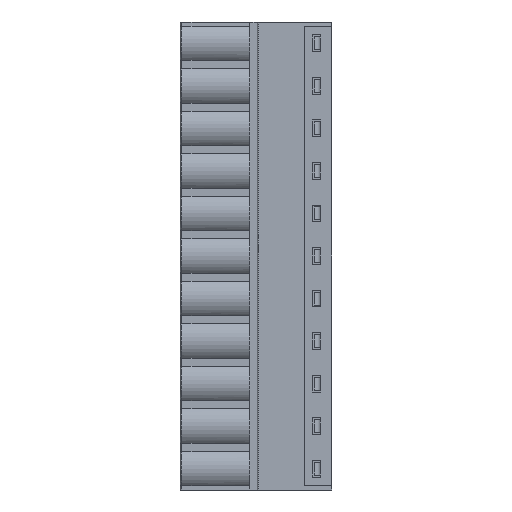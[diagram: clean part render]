
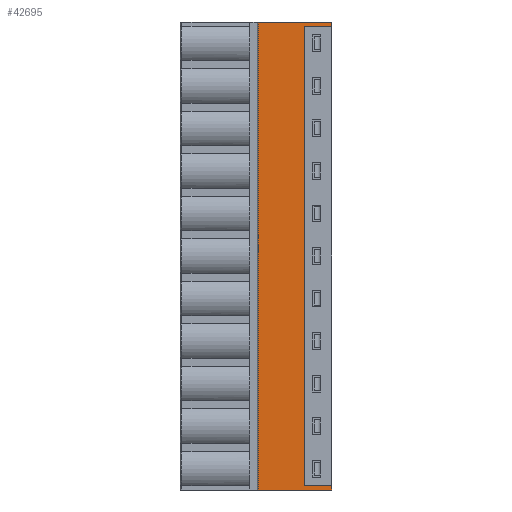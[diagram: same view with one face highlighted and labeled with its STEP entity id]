
A CAD part, left-side view. The second image highlights one B-rep face of the part: STEP entity #42695.
In plain terms, the highlighted planar face has unit normal (-1, 0, 0).
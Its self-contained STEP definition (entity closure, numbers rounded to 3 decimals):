
#285 = CARTESIAN_POINT ( 'NONE',  ( -3.9, 2.9, 0.49 ) ) ;
#451 = ORIENTED_EDGE ( 'NONE', *, *, #17888, .F. ) ;
#521 = CARTESIAN_POINT ( 'NONE',  ( -3.9, 1.933, 0.49 ) ) ;
#560 = CARTESIAN_POINT ( 'NONE',  ( -3.9, 0.967, 55.39 ) ) ;
#895 = DIRECTION ( 'NONE',  ( 0., 0., -1. ) ) ;
#1398 = ORIENTED_EDGE ( 'NONE', *, *, #20600, .T. ) ;
#1809 = ORIENTED_EDGE ( 'NONE', *, *, #32435, .T. ) ;
#2116 = AXIS2_PLACEMENT_3D ( 'NONE', #7474, #8366, #35729 ) ;
#2387 = CARTESIAN_POINT ( 'NONE',  ( -3.9, 3.033, 55.389 ) ) ;
#2413 = DIRECTION ( 'NONE',  ( 0., -1., 0. ) ) ;
#3875 = ORIENTED_EDGE ( 'NONE', *, *, #36444, .T. ) ;
#4239 = CARTESIAN_POINT ( 'NONE',  ( -3.9, 0., 0.49 ) ) ;
#4404 = CARTESIAN_POINT ( 'NONE',  ( -3.9, 0.967, 0.49 ) ) ;
#4687 = PLANE ( 'NONE',  #2116 ) ;
#4951 = VECTOR ( 'NONE', #16677, 1000. ) ;
#5200 = CARTESIAN_POINT ( 'NONE',  ( -3.9, 0., 0.49 ) ) ;
#5690 = EDGE_CURVE ( 'NONE', #8596, #43734, #9918, .T. ) ;
#5792 = CARTESIAN_POINT ( 'NONE',  ( -3.9, 0., 55.88 ) ) ;
#5865 = ORIENTED_EDGE ( 'NONE', *, *, #41375, .F. ) ;
#6347 = EDGE_CURVE ( 'NONE', #9930, #32707, #8628, .T. ) ;
#6689 = CARTESIAN_POINT ( 'NONE',  ( -3.9, 3.3, 55.388 ) ) ;
#7474 = CARTESIAN_POINT ( 'NONE',  ( -3.9, 8.9, 0. ) ) ;
#7654 = VECTOR ( 'NONE', #895, 1000. ) ;
#8366 = DIRECTION ( 'NONE',  ( -1., 0., 0. ) ) ;
#8596 = VERTEX_POINT ( 'NONE', #14011 ) ;
#8628 = LINE ( 'NONE', #15525, #42019 ) ;
#8964 = CARTESIAN_POINT ( 'NONE',  ( -3.9, 1.933, 55.39 ) ) ;
#9857 = VECTOR ( 'NONE', #2413, 1000. ) ;
#9918 = LINE ( 'NONE', #6689, #17000 ) ;
#9930 = VERTEX_POINT ( 'NONE', #32733 ) ;
#10962 = CARTESIAN_POINT ( 'NONE',  ( -3.9, 3.3, 0.492 ) ) ;
#11625 = DIRECTION ( 'NONE',  ( 0., 0., -1. ) ) ;
#11864 = B_SPLINE_CURVE_WITH_KNOTS ( 'NONE', 3,
 ( #43887, #8964, #560, #33552 ),
 .UNSPECIFIED., .F., .F.,
 ( 4, 4 ),
 ( 0., 1. ),
 .UNSPECIFIED. ) ;
#13852 = EDGE_CURVE ( 'NONE', #23124, #14487, #17287, .T. ) ;
#14003 = CARTESIAN_POINT ( 'NONE',  ( -3.9, 0., 55.88 ) ) ;
#14011 = CARTESIAN_POINT ( 'NONE',  ( -3.9, 3.3, 55.388 ) ) ;
#14487 = VERTEX_POINT ( 'NONE', #5200 ) ;
#14533 = CARTESIAN_POINT ( 'NONE',  ( -3.9, 0., 0.49 ) ) ;
#15525 = CARTESIAN_POINT ( 'NONE',  ( -3.9, 8.8, 55.88 ) ) ;
#15765 = LINE ( 'NONE', #29799, #9857 ) ;
#16416 = CARTESIAN_POINT ( 'NONE',  ( -3.9, 2.9, 55.39 ) ) ;
#16677 = DIRECTION ( 'NONE',  ( 0., -1., 0. ) ) ;
#17000 = VECTOR ( 'NONE', #34731, 1000. ) ;
#17125 = CARTESIAN_POINT ( 'NONE',  ( -3.9, 8.8, 55.88 ) ) ;
#17287 = B_SPLINE_CURVE_WITH_KNOTS ( 'NONE', 3,
 ( #285, #521, #4404, #14533 ),
 .UNSPECIFIED., .F., .F.,
 ( 4, 4 ),
 ( 0., 1. ),
 .UNSPECIFIED. ) ;
#17888 = EDGE_CURVE ( 'NONE', #43734, #23124, #38875, .T. ) ;
#17950 = CARTESIAN_POINT ( 'NONE',  ( -3.9, 2.9, 0.49 ) ) ;
#20451 = B_SPLINE_CURVE_WITH_KNOTS ( 'NONE', 3,
 ( #26775, #33889, #2387, #16416 ),
 .UNSPECIFIED., .F., .F.,
 ( 4, 4 ),
 ( 0., 1. ),
 .UNSPECIFIED. ) ;
#20600 = EDGE_CURVE ( 'NONE', #8596, #39065, #20451, .T. ) ;
#20903 = CARTESIAN_POINT ( 'NONE',  ( -3.9, 8.8, 0. ) ) ;
#21506 = VERTEX_POINT ( 'NONE', #28796 ) ;
#21726 = FACE_OUTER_BOUND ( 'NONE', #38725, .T. ) ;
#23075 = VECTOR ( 'NONE', #32285, 1000. ) ;
#23124 = VERTEX_POINT ( 'NONE', #17950 ) ;
#25835 = LINE ( 'NONE', #4239, #23075 ) ;
#26775 = CARTESIAN_POINT ( 'NONE',  ( -3.9, 3.3, 55.388 ) ) ;
#27716 = LINE ( 'NONE', #17125, #4951 ) ;
#27999 = VERTEX_POINT ( 'NONE', #5792 ) ;
#28477 = CARTESIAN_POINT ( 'NONE',  ( -3.9, 2.9, 55.39 ) ) ;
#28796 = CARTESIAN_POINT ( 'NONE',  ( -3.9, 0., 0. ) ) ;
#29799 = CARTESIAN_POINT ( 'NONE',  ( -3.9, 8.8, 0. ) ) ;
#32285 = DIRECTION ( 'NONE',  ( 0., 0., -1. ) ) ;
#32385 = LINE ( 'NONE', #14003, #7654 ) ;
#32435 = EDGE_CURVE ( 'NONE', #39065, #37763, #11864, .T. ) ;
#32626 = EDGE_CURVE ( 'NONE', #27999, #37763, #32385, .T. ) ;
#32707 = VERTEX_POINT ( 'NONE', #20903 ) ;
#32733 = CARTESIAN_POINT ( 'NONE',  ( -3.9, 8.8, 55.88 ) ) ;
#32793 = CARTESIAN_POINT ( 'NONE',  ( -3.9, 3.033, 0.491 ) ) ;
#33552 = CARTESIAN_POINT ( 'NONE',  ( -3.9, 0., 55.39 ) ) ;
#33685 = CARTESIAN_POINT ( 'NONE',  ( -3.9, 2.9, 0.49 ) ) ;
#33889 = CARTESIAN_POINT ( 'NONE',  ( -3.9, 3.167, 55.388 ) ) ;
#34731 = DIRECTION ( 'NONE',  ( 0., 0., -1. ) ) ;
#35729 = DIRECTION ( 'NONE',  ( 0., 0., 1. ) ) ;
#36122 = ORIENTED_EDGE ( 'NONE', *, *, #13852, .F. ) ;
#36216 = CARTESIAN_POINT ( 'NONE',  ( -3.9, 3.3, 0.492 ) ) ;
#36444 = EDGE_CURVE ( 'NONE', #32707, #21506, #15765, .T. ) ;
#36603 = EDGE_CURVE ( 'NONE', #14487, #21506, #25835, .T. ) ;
#37651 = ORIENTED_EDGE ( 'NONE', *, *, #5690, .F. ) ;
#37763 = VERTEX_POINT ( 'NONE', #38096 ) ;
#38096 = CARTESIAN_POINT ( 'NONE',  ( -3.9, 0., 55.39 ) ) ;
#38157 = ORIENTED_EDGE ( 'NONE', *, *, #6347, .T. ) ;
#38725 = EDGE_LOOP ( 'NONE', ( #3875, #39258, #36122, #451, #37651, #1398, #1809, #41570, #5865, #38157 ) ) ;
#38875 = B_SPLINE_CURVE_WITH_KNOTS ( 'NONE', 3,
 ( #36216, #43339, #32793, #33685 ),
 .UNSPECIFIED., .F., .F.,
 ( 4, 4 ),
 ( 0., 1. ),
 .UNSPECIFIED. ) ;
#39065 = VERTEX_POINT ( 'NONE', #28477 ) ;
#39258 = ORIENTED_EDGE ( 'NONE', *, *, #36603, .F. ) ;
#41375 = EDGE_CURVE ( 'NONE', #9930, #27999, #27716, .T. ) ;
#41570 = ORIENTED_EDGE ( 'NONE', *, *, #32626, .F. ) ;
#42019 = VECTOR ( 'NONE', #11625, 1000. ) ;
#42695 = ADVANCED_FACE ( 'NONE', ( #21726 ), #4687, .T. ) ;
#43339 = CARTESIAN_POINT ( 'NONE',  ( -3.9, 3.167, 0.492 ) ) ;
#43734 = VERTEX_POINT ( 'NONE', #10962 ) ;
#43887 = CARTESIAN_POINT ( 'NONE',  ( -3.9, 2.9, 55.39 ) ) ;
